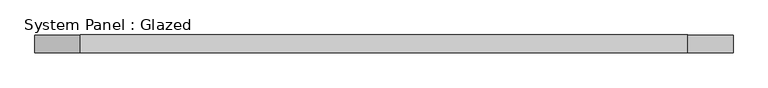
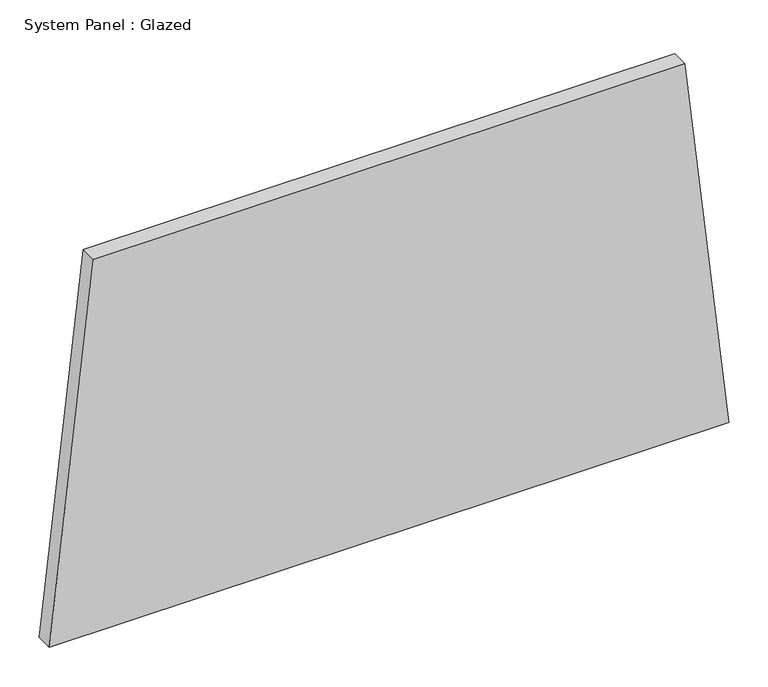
"""IFC4 building model written with IfcOpenShell, lengths in millimetres: plate geometry, System Panel : Glazed."""

from ifc_helpers import new_model, si_unit, frame, origin, place, context, project, spatial, polyline, outline, extrude, source, transform, mapped, element, save


def system_panel_glazed_840234e5(model_context):
    return source(origin(), model_context, "Body", "SweptSolid", [
        extrude(outline(polyline([(0.0, -499.0881439), (0.0, 499.0881439), (580.4357246, 434.2835265), (580.4357246, -434.2835265), (0.0, -499.0881439)])), frame((0.0, 19.05, 0.0), z_axis=(0.0, 1.0, 0.0), x_axis=(0.0, 0.0, 1.0)), (0.0, 0.0, 1.0), 25.4),
    ])


if __name__ == "__main__":
    model = new_model("IFC4")
    model_context = context("Model", 3, world=origin())
    ifc_project = project(units=[si_unit("LENGTHUNIT", "METRE", prefix="MILLI")], contexts=[model_context])
    site = spatial("IfcSite", under=ifc_project)
    building = spatial("IfcBuilding", under=site)
    placement = place(None, origin())
    system_panel_glazed_shape = system_panel_glazed_840234e5(model_context)
    element("IfcPlate", 1, ObjectType="System Panel : Glazed", at=placement, inside=building, context=model_context, shape_type="MappedRepresentation", body=[
        mapped(system_panel_glazed_shape, transform((0.0, 0.0, 0.0), x_axis=(1.0, 0.0, 0.0), y_axis=(0.0, 1.0, 0.0), z_axis=(0.0, 0.0, 1.0))),
    ])
    save(model, "model.ifc")
